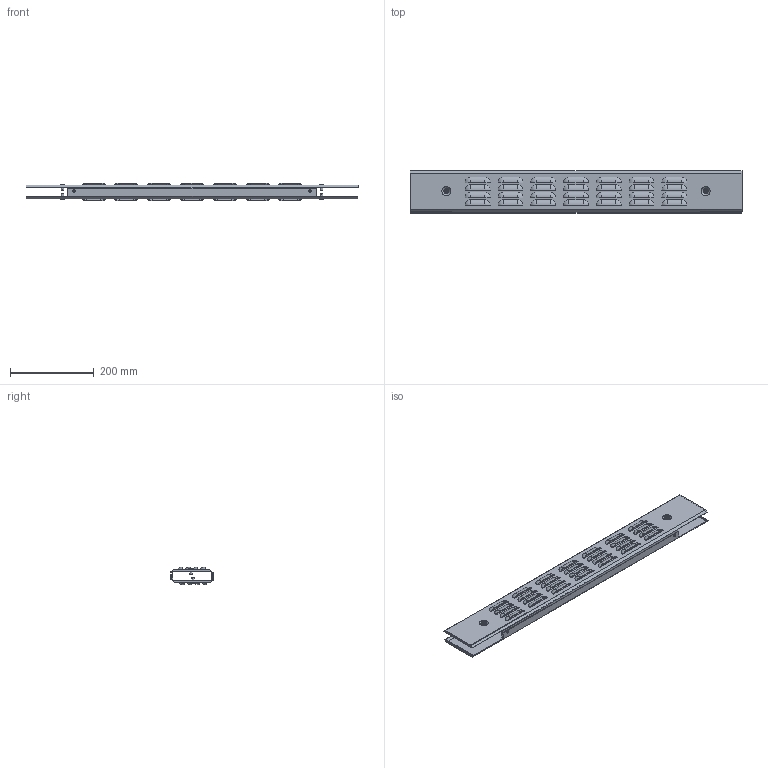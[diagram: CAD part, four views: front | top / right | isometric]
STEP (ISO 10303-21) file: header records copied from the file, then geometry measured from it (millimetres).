
FILE_DESCRIPTION (( 'STEP AP214' ), '1' );
FILE_NAME ('FO-00D-PCV-010-080-7021 Ïàíåëü öîêîëÿ âåíòèëèðóåìàÿ 100õ800 ìì RAL7021 (2 øò.êîìïë.).STEP', '2025-08-21T13:27:05', ( '' ), ( '' ), 'SwSTEP 2.0', 'SolidWorks 2023', '' );
FILE_SCHEMA (( 'AUTOMOTIVE_DESIGN' ));
Length unit declared in the file: millimetre
Products named in the file (2): FO-00D-PCV-010-080-7021 Панель цоколя вентилируемая 100х800 мм RAL7021 (2 шт.компл.); Панель цоколя вентилируемая 100х800 мм
Assembly tree (2 placements, depth 2):
  FO-00D-PCV-010-080-7021 Панель цоколя вентилируемая 100х800 мм RAL7021 (2 шт.компл.)
    Панель цоколя вентилируемая 100х800 мм  x2
Bounding box: 795 x 102.14 x 42.88 mm (x, y, z)
Volume: 295521.9 mm3; surface area: 434820.4 mm2
Topology: 2 solids, 2 shells, 960 faces, 2540 edges, 1608 vertices
Faces by surface type: torus 344, plane 316, cylinder 268, cone 32
Entity records: 15365 total; most frequent: DIRECTION 3044, CARTESIAN_POINT 2559, ORIENTED_EDGE 2540, AXIS2_PLACEMENT_3D 1289, EDGE_CURVE 1270, CIRCLE 804, VERTEX_POINT 804, EDGE_LOOP 556
